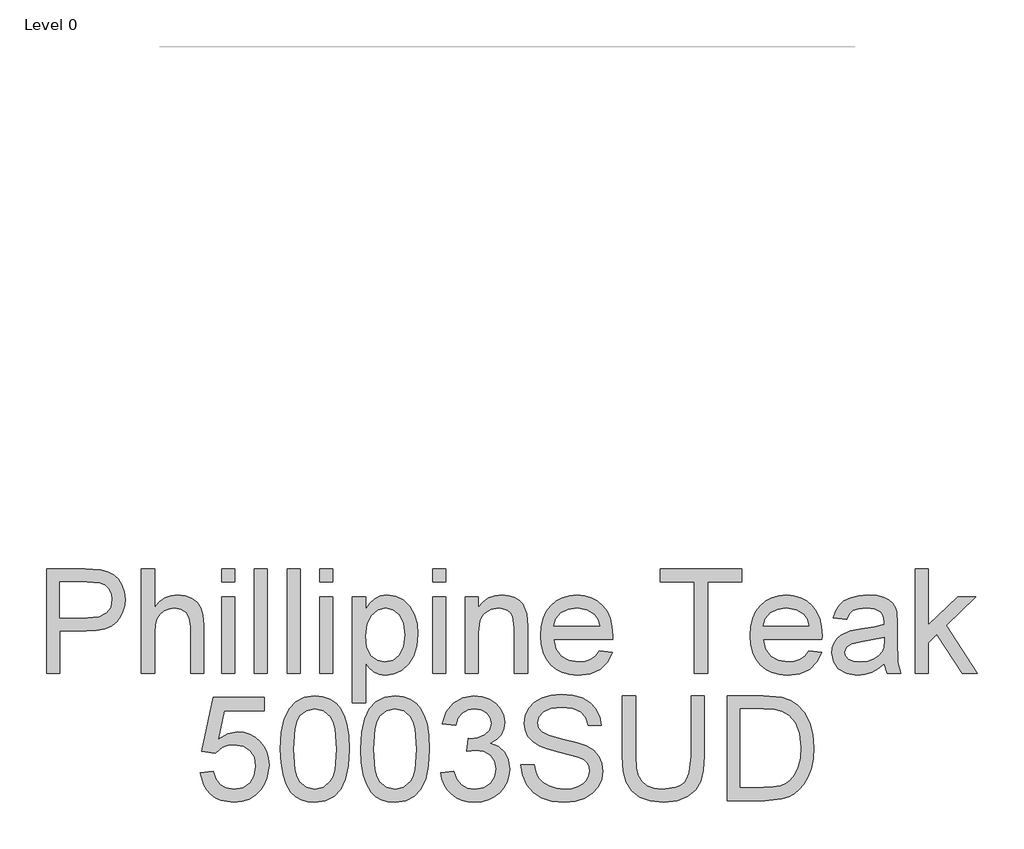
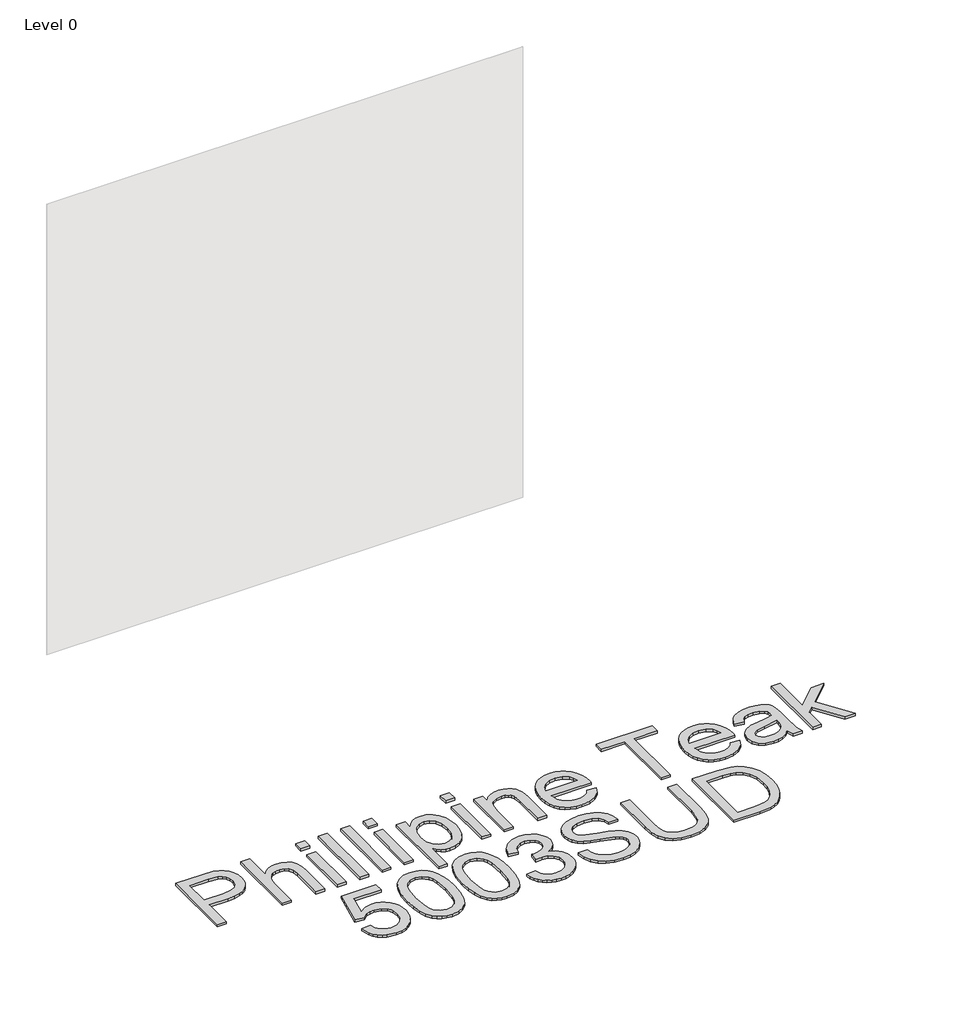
# One storey, part 28 of 43: 1 proxy.
"""IFC4 building model written with IfcOpenShell, lengths in millimetres."""

from ifc_helpers import new_model, si_unit, origin, origin_with_axes, place, context, project, spatial, polyline, outline, extrude, element, save

model = new_model("IFC4")

# Units and contexts
model_context = context("Model", 3, world=origin())
ifc_project = project(units=[si_unit("LENGTHUNIT", "METRE", prefix="MILLI")], contexts=[model_context])

# Site, building, storey
site = spatial("IfcSite", under=ifc_project)
building = spatial("IfcBuilding", under=site)
storey = spatial("IfcBuildingStorey", under=building, Name="Level 0", Elevation=0.0)

# Proxy
placement = place(None, origin())
element("IfcBuildingElementProxy", 1, Name="300mm Arial", ObjectType="300mm Arial", at=placement, inside=storey, context=model_context, shape_type="SweptSolid", body=[
    extrude(outline(polyline([(4223.7895387, -11999.860494), (4223.7895387, -11698.4915635), (4335.4785124, -11698.4915635), (4380.5072686, -11701.3610431), (4400.5844285, -11706.7229232), (4417.1115271, -11715.4509235), (4430.4196583, -11727.9405172), (4440.8399158, -11744.5871775), (4447.5721563, -11764.222879), (4449.8162365, -11785.6795964), (4448.3010225, -11804.1794622), (4443.7553806, -11821.198603), (4436.1793108, -11836.7370188), (4425.572813, -11850.7947095), (4411.0115838, -11862.4473717), (4391.5713196, -11870.7707019), (4367.2520205, -11875.7647), (4338.0536864, -11877.429366), (4261.460655, -11877.429366), (4261.460655, -11999.860494), (4223.7895387, -11999.860494)]), holes=[polyline([(4261.460655, -11839.7582497), (4340.2609783, -11839.7582497), (4373.6646635, -11836.3001589), (4395.7375832, -11825.9258867), (4408.043236, -11809.2792264), (4412.1451202, -11787.0039716), (4409.7262961, -11770.0813998), (4402.4698237, -11755.8075784), (4391.277014, -11745.0654241), (4377.0491779, -11738.7378538), (4339.3780616, -11736.1626798), (4261.460655, -11736.1626798), (4261.460655, -11839.7582497)])]), origin_with_axes(), (0.0, 0.0, 1.0), 10.0),
    extrude(outline(polyline([(4496.9051319, -11999.860494), (4496.9051319, -11698.4915635), (4534.5762482, -11698.4915635), (4534.5762482, -11809.2976205), (4548.4132097, -11793.7821973), (4563.9516255, -11782.6997522), (4581.1914955, -11776.0502852), (4600.1328197, -11773.8337961), (4622.8863211, -11776.2526203), (4642.4392492, -11783.5090926), (4657.8351107, -11795.0329961), (4668.1174124, -11810.2541137), (4673.9115539, -11831.1682051), (4675.8429343, -11859.7710302), (4675.8429343, -11999.860494), (4638.171818, -11999.860494), (4638.171818, -11863.6705794), (4635.1735798, -11840.0893435), (4626.178865, -11823.9393239), (4611.6843144, -11814.6135153), (4592.1865686, -11811.5049125), (4576.2664753, -11813.6018398), (4561.3212692, -11819.8926219), (4548.9420401, -11829.7702535), (4540.7198775, -11842.6277292), (4536.1121555, -11859.7158479), (4534.5762482, -11882.2854083), (4534.5762482, -11999.860494), (4496.9051319, -11999.860494)])), origin_with_axes(), (0.0, 0.0, 1.0), 10.0),
    extrude(outline(polyline([(4727.6407193, -11736.1626798), (4727.6407193, -11698.4915635), (4765.3118356, -11698.4915635), (4765.3118356, -11736.1626798), (4727.6407193, -11736.1626798)])), origin_with_axes(), (0.0, 0.0, 1.0), 10.0),
    extrude(outline(polyline([(4727.6407193, -11999.860494), (4727.6407193, -11778.5426857), (4765.3118356, -11778.5426857), (4765.3118356, -11999.860494), (4727.6407193, -11999.860494)])), origin_with_axes(), (0.0, 0.0, 1.0), 10.0),
    extrude(outline(polyline([(4821.81851, -11999.860494), (4821.81851, -11698.4915635), (4859.4896263, -11698.4915635), (4859.4896263, -11999.860494), (4821.81851, -11999.860494)])), origin_with_axes(), (0.0, 0.0, 1.0), 10.0),
    extrude(outline(polyline([(4915.9963008, -11999.860494), (4915.9963008, -11698.4915635), (4953.6674171, -11698.4915635), (4953.6674171, -11999.860494), (4915.9963008, -11999.860494)])), origin_with_axes(), (0.0, 0.0, 1.0), 10.0),
    extrude(outline(polyline([(5010.1740916, -11736.1626798), (5010.1740916, -11698.4915635), (5047.8452079, -11698.4915635), (5047.8452079, -11736.1626798), (5010.1740916, -11736.1626798)])), origin_with_axes(), (0.0, 0.0, 1.0), 10.0),
    extrude(outline(polyline([(5010.1740916, -11999.860494), (5010.1740916, -11778.5426857), (5047.8452079, -11778.5426857), (5047.8452079, -11999.860494), (5010.1740916, -11999.860494)])), origin_with_axes(), (0.0, 0.0, 1.0), 10.0),
    extrude(outline(polyline([(5104.3518823, -12084.6205057), (5104.3518823, -11778.5426857), (5142.0229986, -11778.5426857), (5142.0229986, -11815.478038), (5154.3102573, -11797.2586822), (5168.0690439, -11784.2448566), (5184.1086989, -11776.4365613), (5203.2385626, -11773.8337961), (5228.7143908, -11777.4758279), (5250.9896456, -11788.4019232), (5269.126228, -11805.9498943), (5282.1860388, -11829.4575538), (5290.0771076, -11857.2142504), (5292.7074639, -11887.5093327), (5289.7368167, -11919.7265984), (5280.8248754, -11948.5409557), (5266.2567484, -11972.4900735), (5246.3175443, -11990.1116211), (5223.0949933, -12000.9549429), (5198.6768259, -12004.5693835), (5181.358781, -12002.1505594), (5165.8985401, -11994.894087), (5152.6639853, -11983.9404006), (5142.0229986, -11970.4299344), (5142.0229986, -12084.6205057), (5104.3518823, -12084.6205057)]), holes=[polyline([(5142.0229986, -11890.9674234), (5146.0972917, -11924.7389906), (5158.320171, -11948.3570147), (5176.3555858, -11962.2629541), (5197.8674855, -11966.8982672), (5219.7288731, -11962.0974072), (5238.2241404, -11947.6948271), (5250.8332958, -11923.2122803), (5255.0363476, -11888.1715202), (5250.9344633, -11854.5838941), (5238.6288106, -11830.6347762), (5220.6209869, -11816.2873784), (5199.4125899, -11811.5049125), (5178.1214194, -11816.590881), (5159.423817, -11831.8487868), (5146.3732032, -11856.8003831), (5142.0229986, -11890.9674234)])]), origin_with_axes(), (0.0, 0.0, 1.0), 10.0),
    extrude(outline(polyline([(5335.0874697, -11736.1626798), (5335.0874697, -11698.4915635), (5372.758586, -11698.4915635), (5372.758586, -11736.1626798), (5335.0874697, -11736.1626798)])), origin_with_axes(), (0.0, 0.0, 1.0), 10.0),
    extrude(outline(polyline([(5335.0874697, -11999.860494), (5335.0874697, -11778.5426857), (5372.758586, -11778.5426857), (5372.758586, -11999.860494), (5335.0874697, -11999.860494)])), origin_with_axes(), (0.0, 0.0, 1.0), 10.0),
    extrude(outline(polyline([(5429.2652605, -11999.860494), (5429.2652605, -11778.5426857), (5466.9363768, -11778.5426857), (5466.9363768, -11809.4447733), (5480.0237788, -11793.8649708), (5495.741537, -11782.7365404), (5514.0896515, -11776.0594822), (5535.0681223, -11773.8337961), (5553.636966, -11775.6272209), (5570.6423112, -11781.0074951), (5584.8241621, -11789.303234), (5594.9225229, -11799.8430532), (5606.2165001, -11827.5445674), (5608.2030629, -11863.964885), (5608.2030629, -11999.860494), (5570.5319466, -11999.860494), (5570.5319466, -11869.0416565), (5566.1909391, -11835.7115477), (5560.1852655, -11825.7879309), (5550.8502599, -11818.0900002), (5538.884898, -11813.1511844), (5524.9881556, -11811.5049125), (5502.924433, -11815.2021265), (5484.1164659, -11826.2937687), (5476.6001769, -11835.3482643), (5471.2313991, -11847.7228949), (5466.9363768, -11882.4325611), (5466.9363768, -11999.860494), (5429.2652605, -11999.860494)])), origin_with_axes(), (0.0, 0.0, 1.0), 10.0),
    extrude(outline(polyline([(5814.9527442, -11933.9360404), (5851.8880965, -11938.64493), (5838.5799654, -11966.4752029), (5817.3439772, -11987.2789297), (5788.6583786, -12000.2467701), (5753.0014162, -12004.5693835), (5729.627114, -12002.7046817), (5708.8003945, -11997.1105761), (5690.5212579, -11987.7870668), (5674.789704, -11974.7341537), (5662.1391619, -11958.3151204), (5653.1030604, -11938.8932503), (5647.6813995, -11916.4685435), (5645.8741792, -11891.0409998), (5647.6997936, -11864.7512327), (5653.1766368, -11841.5792656), (5662.3047088, -11821.5250983), (5675.0840096, -11804.5887309), (5690.7741767, -11791.133447), (5708.6348476, -11781.5225298), (5728.6660222, -11775.7559796), (5750.8677007, -11773.8337961), (5772.3543084, -11775.751381), (5791.7853756, -11781.5041357), (5809.160902, -11791.0920602), (5824.4808879, -11804.5151545), (5836.9865765, -11821.4147337), (5845.9192112, -11841.4321128), (5851.278792, -11864.5672917), (5853.0653189, -11890.8202706), (5852.8445897, -11900.9738137), (5683.5452955, -11900.9738137), (5690.0660039, -11929.1719686), (5705.213545, -11949.902119), (5727.0749326, -11962.6492302), (5753.7371802, -11966.8982672), (5773.786749, -11964.9300985), (5790.6725325, -11959.0255925), (5804.3945309, -11948.8168672), (5814.9527442, -11933.9360404)]), holes=[polyline([(5683.5452955, -11863.3026974), (5815.3942026, -11863.3026974), (5810.299037, -11843.4002814), (5800.3110408, -11829.1632482), (5778.3484857, -11815.9194964), (5750.7205479, -11811.5049125), (5725.3274931, -11815.0273826), (5704.3306283, -11825.5947929), (5689.7349101, -11842.0667092), (5683.5452955, -11863.3026974)])]), origin_with_axes(), (0.0, 0.0, 1.0), 10.0),
    extrude(outline(polyline([(6088.5097958, -11999.860494), (6088.5097958, -11736.1626798), (5989.6231155, -11736.1626798), (5989.6231155, -11698.4915635), (6225.0675924, -11698.4915635), (6225.0675924, -11736.1626798), (6126.1809121, -11736.1626798), (6126.1809121, -11999.860494), (6088.5097958, -11999.860494)])), origin_with_axes(), (0.0, 0.0, 1.0), 10.0),
    extrude(outline(polyline([(6417.6906051, -11933.9360404), (6454.6259574, -11938.64493), (6441.3178262, -11966.4752029), (6420.0818381, -11987.2789297), (6391.3962395, -12000.2467701), (6355.7392771, -12004.5693835), (6332.3649749, -12002.7046817), (6311.5382554, -11997.1105761), (6293.2591188, -11987.7870668), (6277.5275649, -11974.7341537), (6264.8770228, -11958.3151204), (6255.8409213, -11938.8932503), (6250.4192604, -11916.4685435), (6248.6120401, -11891.0409998), (6250.4376545, -11864.7512327), (6255.9144977, -11841.5792656), (6265.0425697, -11821.5250983), (6277.8218705, -11804.5887309), (6293.5120376, -11791.133447), (6311.3727085, -11781.5225298), (6331.4038831, -11775.7559796), (6353.6055615, -11773.8337961), (6375.0921693, -11775.751381), (6394.5232365, -11781.5041357), (6411.8987629, -11791.0920602), (6427.2187488, -11804.5151545), (6439.7244374, -11821.4147337), (6448.6570721, -11841.4321128), (6454.0166529, -11864.5672917), (6455.8031798, -11890.8202706), (6455.5824506, -11900.9738137), (6286.2831564, -11900.9738137), (6292.8038648, -11929.1719686), (6307.9514059, -11949.902119), (6329.8127935, -11962.6492302), (6356.4750411, -11966.8982672), (6376.5246098, -11964.9300985), (6393.4103934, -11959.0255925), (6407.1323918, -11948.8168672), (6417.6906051, -11933.9360404)]), holes=[polyline([(6286.2831564, -11863.3026974), (6418.1320635, -11863.3026974), (6413.0368979, -11843.4002814), (6403.0489017, -11829.1632482), (6381.0863466, -11815.9194964), (6353.4584088, -11811.5049125), (6328.065354, -11815.0273826), (6307.0684892, -11825.5947929), (6292.472771, -11842.0667092), (6286.2831564, -11863.3026974)])]), origin_with_axes(), (0.0, 0.0, 1.0), 10.0),
    extrude(outline(polyline([(6634.7409823, -11971.6071568), (6616.7423556, -11987.0398064), (6598.2103001, -11997.1381672), (6578.7217514, -12002.7115794), (6557.8536453, -12004.5693835), (6526.3721435, -12000.0996173), (6503.1495926, -11986.6903186), (6488.8297859, -11966.3280501), (6484.056517, -11940.9993748), (6485.8591388, -11925.3827841), (6491.2670041, -11911.2009331), (6499.6087284, -11899.0608273), (6510.2129269, -11889.5694718), (6536.5900659, -11877.2086368), (6569.1844107, -11871.5432541), (6607.7016556, -11865.5835657), (6634.5202531, -11858.5938078), (6634.7409823, -11850.2060983), (6632.1474142, -11833.3938912), (6624.36671, -11822.3942195), (6606.9658916, -11814.2272392), (6582.7224681, -11811.5049125), (6560.2816664, -11813.3167313), (6544.6098934, -11818.7521878), (6533.9229215, -11828.8045633), (6526.4365229, -11844.4671392), (6488.7654066, -11839.7582497), (6495.304509, -11819.156858), (6505.062579, -11802.9700502), (6518.9501243, -11790.590821), (6537.8776529, -11781.4121652), (6561.0266275, -11775.7283884), (6587.5785105, -11773.8337961), (6613.0451416, -11775.5076592), (6633.2326661, -11780.5292485), (6648.4537836, -11788.0800264), (6659.0211939, -11797.3414556), (6666.029346, -11808.7917827), (6670.5726886, -11822.9092543), (6672.4120986, -11855.8714811), (6672.4120986, -11902.7396473), (6674.3250849, -11968.1858542), (6681.8298776, -11999.860494), (6644.1587613, -11999.860494), (6634.7409823, -11971.6071568)]), holes=[polyline([(6634.7409823, -11896.2649241), (6573.9668767, -11907.8164188), (6541.5564729, -11913.9232599), (6526.8779813, -11923.8560738), (6521.7276333, -11938.3506244), (6524.5327336, -11949.5526311), (6532.9480342, -11958.7312869), (6546.7895943, -11964.8565221), (6565.8734728, -11966.8982672), (6586.1069825, -11964.64499), (6603.9860475, -11957.8851583), (6618.4805981, -11947.9247533), (6628.5605647, -11936.069756), (6633.030331, -11923.8560738), (6634.5202531, -11906.933502), (6634.7409823, -11896.2649241)])]), origin_with_axes(), (0.0, 0.0, 1.0), 10.0),
    extrude(outline(polyline([(6724.2098835, -11999.860494), (6724.2098835, -11698.4915635), (6761.8809998, -11698.4915635), (6761.8809998, -11860.4332178), (6846.3467059, -11778.5426857), (6898.4387964, -11778.5426857), (6812.9430207, -11861.4632874), (6903.1476859, -11999.860494), (6859.1489993, -11999.860494), (6785.9404823, -11887.6564855), (6761.8809998, -11910.9802039), (6761.8809998, -11999.860494), (6724.2098835, -11999.860494)])), origin_with_axes(), (0.0, 0.0, 1.0), 10.0),
    extrude(outline(polyline([(4666.4251553, -12285.7338254), (4704.0962716, -12281.0249358), (4711.0124531, -12303.6404815), (4723.0789825, -12319.8364863), (4740.2406776, -12329.5761621), (4762.442356, -12332.8227207), (4789.4448945, -12328.3069693), (4809.6784042, -12314.7597148), (4822.3151507, -12293.7444558), (4826.5273996, -12266.8246908), (4822.5818652, -12241.4776213), (4810.745262, -12222.0902402), (4790.9256195, -12209.7845875), (4763.0309672, -12205.6827032), (4744.7564291, -12207.3197781), (4729.9583758, -12212.2310027), (4708.8051611, -12229.2271509), (4671.1340448, -12224.5182614), (4704.0962716, -12069.1249066), (4850.0718473, -12069.1249066), (4850.0718473, -12106.7960229), (4734.5569008, -12106.7960229), (4718.4436694, -12189.790201), (4745.3542373, -12173.4562404), (4773.5523923, -12168.0115869), (4791.8982075, -12169.6992456), (4808.7495022, -12174.7622215), (4824.1062762, -12183.2005148), (4837.9685296, -12195.0141254), (4849.4441486, -12209.4810848), (4857.6410193, -12225.8794248), (4862.5591417, -12244.2091452), (4864.1985159, -12264.470246), (4858.2940099, -12302.1413624), (4850.9133773, -12318.9351754), (4840.5804918, -12334.3678251), (4824.9271129, -12350.1729553), (4806.6617718, -12361.4623341), (4785.7844686, -12368.2359613), (4762.2952032, -12370.4938371), (4725.2954715, -12364.6904986), (4709.6168008, -12357.4363255), (4695.8189267, -12347.2804832), (4684.3387092, -12334.7288093), (4675.6130081, -12320.2871418), (4666.4251553, -12285.7338254)])), origin_with_axes(), (0.0, 0.0, 1.0), 10.0),
    extrude(outline(polyline([(4897.1607426, -12217.5285035), (4899.9290547, -12169.2899768), (4908.2339907, -12130.8187172), (4921.9927773, -12101.5261133), (4941.1226411, -12080.8235541), (4965.7615377, -12068.5179013), (4996.0474229, -12064.4160171), (5019.2607768, -12066.8440382), (5040.0461096, -12074.1281017), (5057.4285338, -12085.983099), (5070.4331624, -12102.1239216), (5080.2556116, -12122.4126136), (5088.0914981, -12146.7112194), (5093.223452, -12177.5673217), (5094.9341033, -12217.5285035), (5092.1933824, -12265.4911186), (5083.9712198, -12303.8704077), (5070.2952066, -12333.1906027), (5051.192934, -12353.9759355), (5026.4988551, -12366.3643617), (4996.0474229, -12370.4938371), (4975.2988784, -12368.7004123), (4956.9047787, -12363.3201381), (4940.8651237, -12354.3530145), (4927.1799134, -12341.7990414), (4914.0465262, -12319.1053209), (4904.6655353, -12290.828991), (4899.0369408, -12256.9700519), (4897.1607426, -12217.5285035)]), holes=[polyline([(4934.8318589, -12217.4549271), (4939.2464429, -12276.7115194), (4944.7646728, -12296.9795181), (4952.4901947, -12311.0073184), (4972.2086697, -12327.3688702), (4996.0474229, -12332.8227207), (5019.8861762, -12327.3504761), (5039.6046512, -12310.933742), (5047.3301731, -12296.8829491), (5052.848403, -12276.6195489), (5057.2629869, -12217.4549271), (5052.9955558, -12159.5319069), (5047.6612669, -12139.3305869), (5040.1932624, -12124.9693935), (5020.5115756, -12107.8076984), (4995.6059646, -12102.0871334), (4972.0247287, -12107.1271167), (4953.0788059, -12122.2470667), (4945.0957666, -12137.8820515), (4939.3935957, -12158.9616898), (4934.8318589, -12217.4549271)])]), origin_with_axes(), (0.0, 0.0, 1.0), 10.0),
    extrude(outline(polyline([(5127.89633, -12217.5285035), (5130.664642, -12169.2899768), (5138.9695781, -12130.8187172), (5152.7283647, -12101.5261133), (5171.8582284, -12080.8235541), (5196.4971251, -12068.5179013), (5226.7830103, -12064.4160171), (5249.9963642, -12066.8440382), (5270.7816969, -12074.1281017), (5288.1641212, -12085.983099), (5301.1687497, -12102.1239216), (5310.991199, -12122.4126136), (5318.8270855, -12146.7112194), (5323.9590393, -12177.5673217), (5325.6696906, -12217.5285035), (5322.9289698, -12265.4911186), (5314.7068072, -12303.8704077), (5301.030794, -12333.1906027), (5281.9285214, -12353.9759355), (5257.2344425, -12366.3643617), (5226.7830103, -12370.4938371), (5206.0344658, -12368.7004123), (5187.640366, -12363.3201381), (5171.600711, -12354.3530145), (5157.9155008, -12341.7990414), (5144.7821136, -12319.1053209), (5135.4011227, -12290.828991), (5129.7725282, -12256.9700519), (5127.89633, -12217.5285035)]), holes=[polyline([(5165.5674463, -12217.4549271), (5169.9820303, -12276.7115194), (5175.5002602, -12296.9795181), (5183.2257821, -12311.0073184), (5202.944257, -12327.3688702), (5226.7830103, -12332.8227207), (5250.6217636, -12327.3504761), (5270.3402386, -12310.933742), (5278.0657604, -12296.8829491), (5283.5839904, -12276.6195489), (5287.9985743, -12217.4549271), (5283.7311432, -12159.5319069), (5278.3968542, -12139.3305869), (5270.9288497, -12124.9693935), (5251.247163, -12107.8076984), (5226.3415519, -12102.0871334), (5202.760316, -12107.1271167), (5183.8143933, -12122.2470667), (5175.831354, -12137.8820515), (5170.1291831, -12158.9616898), (5165.5674463, -12217.4549271)])]), origin_with_axes(), (0.0, 0.0, 1.0), 10.0),
    extrude(outline(polyline([(5358.6319174, -12285.7338254), (5396.3030337, -12281.0249358), (5404.7367284, -12304.6981422), (5417.0883664, -12320.6826149), (5433.964953, -12329.7876943), (5455.9734933, -12332.8227207), (5481.7988094, -12328.6472601), (5501.7380135, -12316.1208782), (5514.4851246, -12297.4324728), (5518.7341617, -12274.7709419), (5514.5219128, -12253.2590422), (5501.8851663, -12235.8122386), (5482.7553026, -12224.2515469), (5459.0637021, -12220.397983), (5432.6497748, -12224.5182614), (5436.8436296, -12186.8471451), (5442.8768943, -12187.2886035), (5465.4464547, -12184.5846708), (5485.6247821, -12176.4728728), (5499.8618153, -12162.7508744), (5504.6074931, -12143.2163404), (5501.1677964, -12126.9467592), (5490.8487065, -12113.7489926), (5475.1033571, -12105.0025982), (5455.3848821, -12102.0871334), (5435.629619, -12105.0301893), (5419.4795994, -12113.8593572), (5407.6889814, -12128.574637), (5401.0119232, -12149.1760288), (5363.3408069, -12144.4671392), (5374.4324491, -12110.6403898), (5394.1693181, -12085.3852908), (5421.1718566, -12069.6583355), (5454.0605069, -12064.4160171), (5477.7429104, -12067.0003881), (5499.4939333, -12074.7535011), (5517.8328508, -12086.9855775), (5531.2789377, -12103.0068384), (5539.5286915, -12121.4653175), (5542.2786094, -12141.0090485), (5539.6666472, -12159.2192072), (5531.8307607, -12175.7371088), (5518.8813145, -12189.8085951), (5500.9286731, -12200.6795081), (5524.509909, -12210.2076518), (5541.9843038, -12226.4312477), (5552.8000344, -12248.4673793), (5556.405278, -12275.4331295), (5554.6026562, -12294.5445992), (5549.1947909, -12312.1477526), (5540.181682, -12328.2425899), (5527.5633296, -12342.829111), (5512.1904607, -12354.9324287), (5494.9138025, -12363.5776555), (5475.733355, -12368.7647917), (5454.6491181, -12370.4938371), (5435.5928308, -12369.0177105), (5418.2288006, -12364.589331), (5402.5570276, -12357.2086985), (5388.5775118, -12346.875813), (5376.8558717, -12334.1976797), (5367.957726, -12319.781304), (5361.8830745, -12303.6266859), (5358.6319174, -12285.7338254)])), origin_with_axes(), (0.0, 0.0, 1.0), 10.0),
    extrude(outline(polyline([(5589.3675048, -12262.1893777), (5627.0386211, -12262.1893777), (5631.3612345, -12283.0942721), (5639.1787269, -12299.8972822), (5651.3740151, -12313.2330045), (5668.8300157, -12323.7360355), (5690.1671714, -12330.5510494), (5714.0059247, -12332.8227207), (5734.9935926, -12331.1028724), (5753.3692982, -12325.9433274), (5768.259322, -12317.7763471), (5778.7899441, -12307.0341929), (5785.0531351, -12294.700949), (5787.1408654, -12281.7606998), (5785.5773669, -12269.1515444), (5780.8868715, -12258.2530403), (5771.3587278, -12248.9548229), (5755.2822846, -12241.1465276), (5700.4310791, -12226.7623415), (5664.4246288, -12217.2433949), (5641.3860189, -12208.1843008), (5622.6332342, -12195.510766), (5609.3434971, -12180.1516928), (5601.4248372, -12162.4381747), (5598.7852838, -12142.7013056), (5602.0502366, -12120.637583), (5611.8450947, -12100.0637824), (5627.9123408, -12082.6261758), (5649.9944576, -12069.9710352), (5676.5003553, -12062.2731044), (5705.8389444, -12059.7071275), (5737.6239488, -12062.3926661), (5765.4358277, -12070.4492818), (5788.2812996, -12083.7114277), (5805.1670831, -12102.013557), (5815.8540551, -12124.2152354), (5820.1030921, -12149.1760288), (5782.4319758, -12149.1760288), (5775.5157943, -12126.6984389), (5761.0948201, -12110.4748429), (5738.5620479, -12100.6523936), (5707.3104724, -12097.3782438), (5675.3231329, -12100.6156054), (5653.3789719, -12110.3276901), (5640.6870431, -12124.6199056), (5636.4564002, -12141.5976597), (5639.4546384, -12156.0738162), (5648.4493532, -12167.7172813), (5669.7129325, -12178.1283418), (5709.9592228, -12188.7601314), (5751.4931, -12198.8584922), (5776.6194403, -12207.669266), (5798.0945518, -12221.3360821), (5813.076546, -12238.2034716), (5821.8781228, -12258.0874934), (5824.8119817, -12280.8042066), (5821.4366644, -12304.0267576), (5811.3107125, -12325.869751), (5794.8479932, -12344.668521), (5772.4623738, -12358.7584014), (5745.5426088, -12367.5599781), (5715.4774527, -12370.4938371), (5678.5696915, -12367.3300519), (5648.1918358, -12357.8386964), (5623.9943976, -12341.9829824), (5605.627889, -12319.7261217), (5593.837271, -12292.6132187), (5589.3675048, -12262.1893777)])), origin_with_axes(), (0.0, 0.0, 1.0), 10.0),
    extrude(outline(polyline([(6079.0920167, -12064.4160171), (6116.7631331, -12064.4160171), (6116.7631331, -12238.277048), (6114.2063532, -12278.9923878), (6106.5360136, -12310.3451308), (6092.2070099, -12334.533372), (6069.6742377, -12353.7552063), (6038.8825147, -12366.3091794), (5999.7766586, -12370.4938371), (5961.5261281, -12366.8518053), (5930.9459373, -12355.92571), (5908.026889, -12338.0926303), (5892.7597862, -12313.7296452), (5884.1789387, -12281.052527), (5881.3186561, -12238.277048), (5881.3186561, -12064.4160171), (5918.9897724, -12064.4160171), (5918.9897724, -12236.9526728), (5920.8475765, -12270.8070134), (5926.4209887, -12294.3790523), (5936.5193495, -12310.7038158), (5951.9519992, -12322.8163305), (5972.0751444, -12330.3211232), (5996.2449914, -12332.8227207), (6034.5599012, -12327.8747079), (6048.9027005, -12321.6896919), (6060.0357294, -12313.0306694), (6068.3728551, -12300.8537754), (6074.3279449, -12284.1151446), (6079.0920167, -12236.9526728), (6079.0920167, -12064.4160171)])), origin_with_axes(), (0.0, 0.0, 1.0), 10.0),
    extrude(outline(polyline([(6182.6875866, -12365.7849475), (6182.6875866, -12064.4160171), (6286.6510384, -12064.4160171), (6340.4353861, -12068.7570246), (6364.4580804, -12077.12634), (6384.7283783, -12090.3149095), (6405.5688934, -12113.270746), (6420.4129319, -12141.8183889), (6429.2972821, -12175.406015), (6432.2587321, -12213.4818015), (6430.2537752, -12245.8278259), (6424.2389046, -12274.2926953), (6415.0786429, -12298.5269217), (6403.6375129, -12318.1810173), (6390.4673375, -12333.6964405), (6376.1199397, -12345.5146496), (6359.6480233, -12354.2794381), (6340.1042923, -12360.6345996), (6291.6542336, -12365.7849475), (6182.6875866, -12365.7849475)]), holes=[polyline([(6220.3587029, -12328.1138312), (6287.0189204, -12328.1138312), (6314.591676, -12326.7526678), (6335.5057674, -12322.6691777), (6351.287905, -12316.1024841), (6363.464799, -12307.2917103), (6376.552201, -12290.9853408), (6386.3838473, -12269.8781114), (6392.5366737, -12243.8780514), (6394.5876158, -12212.8931903), (6390.568505, -12171.8375597), (6378.5111726, -12141.5240833), (6360.696487, -12120.7019623), (6339.4053165, -12108.1203981), (6317.737067, -12103.5954496), (6285.9888508, -12102.0871334), (6220.3587029, -12102.0871334), (6220.3587029, -12328.1138312)])]), origin_with_axes(), (0.0, 0.0, 1.0), 10.0),
])

save(model, "model.ifc")
